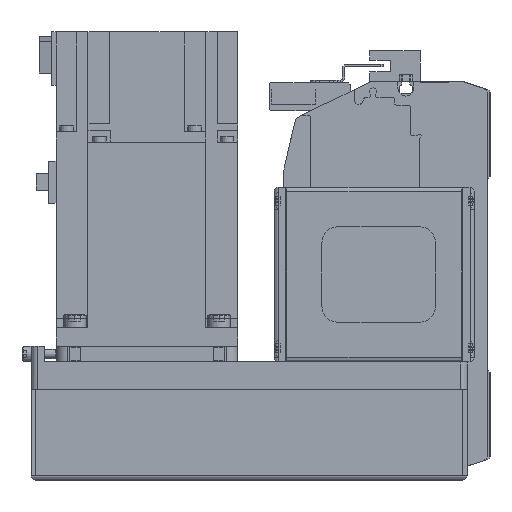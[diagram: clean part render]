
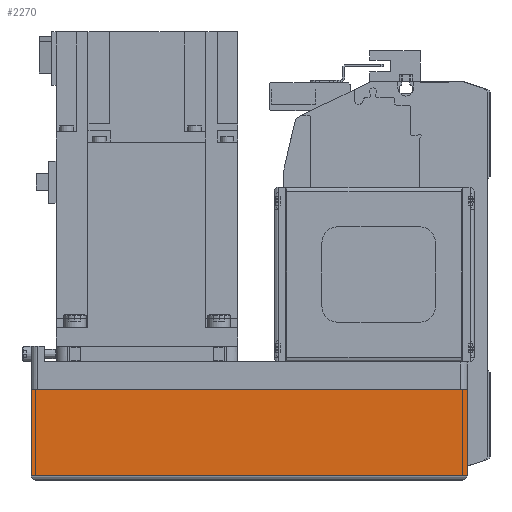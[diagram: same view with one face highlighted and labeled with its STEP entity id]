
A CAD part, left-side view. The second image highlights one B-rep face of the part: STEP entity #2270.
In plain terms, the highlighted planar face has unit normal (-1, 0, 0) as drawn and (0, -1, 0) by its records, which use the part's own axes.
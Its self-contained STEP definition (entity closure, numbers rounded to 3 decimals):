
#2270 = ADVANCED_FACE( '', ( #5234 ), #5235, .T. );
#5234 = FACE_OUTER_BOUND( '', #9038, .T. );
#5235 = PLANE( '', #9039 );
#9038 = EDGE_LOOP( '', ( #15488, #15489, #15490, #15491 ) );
#9039 = AXIS2_PLACEMENT_3D( '', #15492, #15493, #15494 );
#15488 = ORIENTED_EDGE( '', *, *, #23495, .F. );
#15489 = ORIENTED_EDGE( '', *, *, #23496, .F. );
#15490 = ORIENTED_EDGE( '', *, *, #23497, .T. );
#15491 = ORIENTED_EDGE( '', *, *, #23472, .T. );
#15492 = CARTESIAN_POINT( '', ( -192., -40., -12.1 ) );
#15493 = DIRECTION( '', ( 0., -1., 0. ) );
#15494 = DIRECTION( '', ( 0., 0., -1. ) );
#23472 = EDGE_CURVE( '', #28785, #28787, #28789, .T. );
#23495 = EDGE_CURVE( '', #28527, #28787, #28821, .T. );
#23496 = EDGE_CURVE( '', #28822, #28527, #28823, .T. );
#23497 = EDGE_CURVE( '', #28822, #28785, #28824, .T. );
#28527 = VERTEX_POINT( '', #36379 );
#28785 = VERTEX_POINT( '', #36727 );
#28787 = VERTEX_POINT( '', #36729 );
#28789 = LINE( '', #36731, #36732 );
#28821 = LINE( '', #36769, #36770 );
#28822 = VERTEX_POINT( '', #36771 );
#28823 = LINE( '', #36772, #36773 );
#28824 = LINE( '', #36774, #36775 );
#36379 = CARTESIAN_POINT( '', ( 0., -40., -12.1 ) );
#36727 = CARTESIAN_POINT( '', ( -192., -40., -50. ) );
#36729 = CARTESIAN_POINT( '', ( 0., -40., -50. ) );
#36731 = CARTESIAN_POINT( '', ( -192., -40., -50. ) );
#36732 = VECTOR( '', #42808, 1000. );
#36769 = CARTESIAN_POINT( '', ( 0., -40., -12.1 ) );
#36770 = VECTOR( '', #42841, 1000. );
#36771 = CARTESIAN_POINT( '', ( -192., -40., -12.1 ) );
#36772 = CARTESIAN_POINT( '', ( -192., -40., -12.1 ) );
#36773 = VECTOR( '', #42842, 1000. );
#36774 = CARTESIAN_POINT( '', ( -192., -40., -12.1 ) );
#36775 = VECTOR( '', #42843, 1000. );
#42808 = DIRECTION( '', ( 1., 0., 0. ) );
#42841 = DIRECTION( '', ( 0., 0., -1. ) );
#42842 = DIRECTION( '', ( 1., 0., 0. ) );
#42843 = DIRECTION( '', ( 0., 0., -1. ) );
